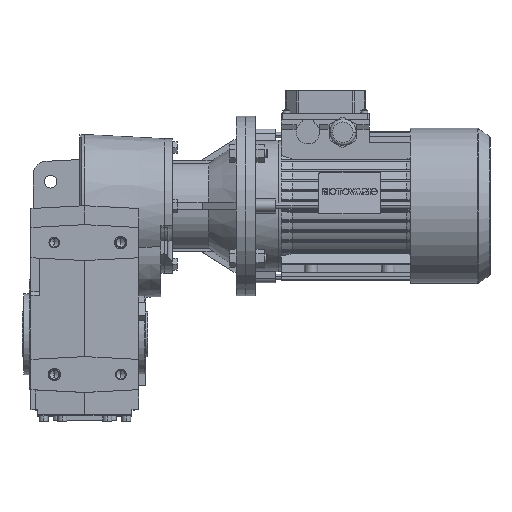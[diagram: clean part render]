
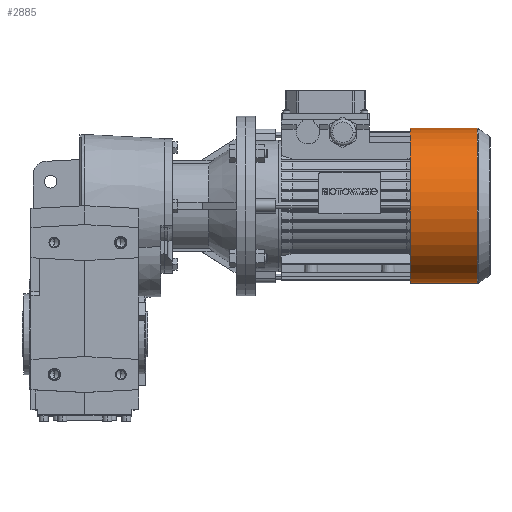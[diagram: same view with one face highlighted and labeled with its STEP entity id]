
A CAD part, top view. The second image highlights one B-rep face of the part: STEP entity #2885.
In plain terms, the highlighted cylindrical face has radius 86.45 mm (diameter 172.9 mm), a partial arc.
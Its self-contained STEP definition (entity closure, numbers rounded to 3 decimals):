
#2885 = ADVANCED_FACE( '', ( #7778 ), #7779, .T. );
#7778 = FACE_OUTER_BOUND( '', #12741, .T. );
#7779 = CYLINDRICAL_SURFACE( '', #12742, 86.45 );
#12741 = EDGE_LOOP( '', ( #32419, #32420, #32421, #32422, #32423 ) );
#12742 = AXIS2_PLACEMENT_3D( '', #32424, #32425, #32426 );
#32419 = ORIENTED_EDGE( '', *, *, #39153, .T. );
#32420 = ORIENTED_EDGE( '', *, *, #39177, .F. );
#32421 = ORIENTED_EDGE( '', *, *, #39156, .T. );
#32422 = ORIENTED_EDGE( '', *, *, #39176, .T. );
#32423 = ORIENTED_EDGE( '', *, *, #39162, .T. );
#32424 = CARTESIAN_POINT( '', ( 461.937, 143., 0. ) );
#32425 = DIRECTION( '', ( 1., 0., 0. ) );
#32426 = DIRECTION( '', ( 0., 1., 0. ) );
#39153 = EDGE_CURVE( '', #49670, #49671, #49672, .T. );
#39156 = EDGE_CURVE( '', #49677, #49675, #49678, .T. );
#39162 = EDGE_CURVE( '', #49681, #49670, #49688, .T. );
#39176 = EDGE_CURVE( '', #49675, #49681, #49710, .T. );
#39177 = EDGE_CURVE( '', #49677, #49671, #49711, .T. );
#49670 = VERTEX_POINT( '', #66331 );
#49671 = VERTEX_POINT( '', #66332 );
#49672 = LINE( '', #66333, #66334 );
#49675 = VERTEX_POINT( '', #66337 );
#49677 = VERTEX_POINT( '', #66339 );
#49678 = LINE( '', #66340, #66341 );
#49681 = VERTEX_POINT( '', #66344 );
#49688 = CIRCLE( '', #66351, 86.45 );
#49710 = CIRCLE( '', #66375, 86.45 );
#49711 = CIRCLE( '', #66376, 86.45 );
#66331 = CARTESIAN_POINT( '', ( 499.373, 229.45, 0. ) );
#66332 = CARTESIAN_POINT( '', ( 424.5, 229.45, 0. ) );
#66333 = CARTESIAN_POINT( '', ( 461.937, 229.45, 0. ) );
#66334 = VECTOR( '', #77356, 1. );
#66337 = CARTESIAN_POINT( '', ( 499.373, 56.55, 0. ) );
#66339 = CARTESIAN_POINT( '', ( 424.5, 56.55, 0. ) );
#66340 = CARTESIAN_POINT( '', ( 461.937, 56.55, 0. ) );
#66341 = VECTOR( '', #77363, 1. );
#66344 = CARTESIAN_POINT( '', ( 499.373, 143., 86.45 ) );
#66351 = AXIS2_PLACEMENT_3D( '', #77379, #77380, #77381 );
#66375 = AXIS2_PLACEMENT_3D( '', #77417, #77418, #77419 );
#66376 = AXIS2_PLACEMENT_3D( '', #77420, #77421, #77422 );
#77356 = DIRECTION( '', ( -1., 0., 0. ) );
#77363 = DIRECTION( '', ( 1., 0., 0. ) );
#77379 = CARTESIAN_POINT( '', ( 499.373, 143., 0. ) );
#77380 = DIRECTION( '', ( -1., 0., 0. ) );
#77381 = DIRECTION( '', ( 0., 1., 0. ) );
#77417 = CARTESIAN_POINT( '', ( 499.373, 143., 0. ) );
#77418 = DIRECTION( '', ( -1., 0., 0. ) );
#77419 = DIRECTION( '', ( 0., 1., 0. ) );
#77420 = CARTESIAN_POINT( '', ( 424.5, 143., 0. ) );
#77421 = DIRECTION( '', ( -1., 0., 0. ) );
#77422 = DIRECTION( '', ( 0., 1., 0. ) );
